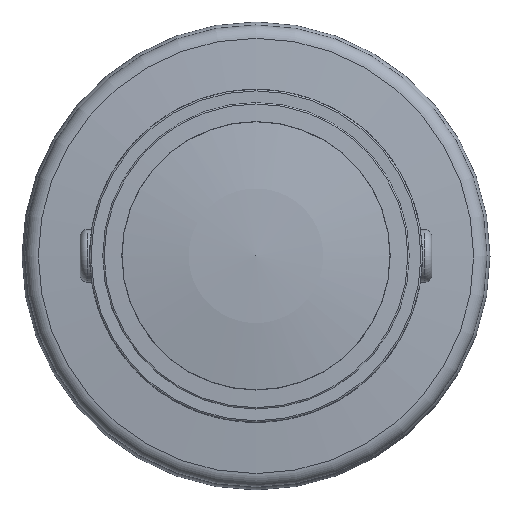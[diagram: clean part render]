
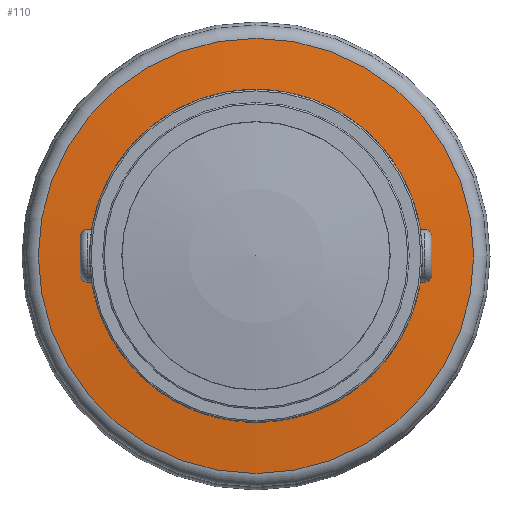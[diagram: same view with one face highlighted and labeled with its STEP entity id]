
A CAD part, top view. The second image highlights one B-rep face of the part: STEP entity #110.
In plain terms, the highlighted conical face has half-angle 85 degrees and reference radius 26.581 mm.
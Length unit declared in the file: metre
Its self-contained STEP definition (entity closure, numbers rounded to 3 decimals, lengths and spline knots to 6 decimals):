
#110 = ADVANCED_FACE( '', ( #247, #248 ), #249, .T. );
#247 = FACE_OUTER_BOUND( '', #432, .T. );
#248 = FACE_BOUND( '', #433, .T. );
#249 = CONICAL_SURFACE( '', #434, 0.026581, 1.484 );
#432 = EDGE_LOOP( '', ( #653 ) );
#433 = EDGE_LOOP( '', ( #654 ) );
#434 = AXIS2_PLACEMENT_3D( '', #655, #656, #657 );
#653 = ORIENTED_EDGE( '', *, *, #854, .T. );
#654 = ORIENTED_EDGE( '', *, *, #840, .T. );
#655 = CARTESIAN_POINT( '', ( 0., 0., -0.015809 ) );
#656 = DIRECTION( '', ( 0., 0., -1. ) );
#657 = DIRECTION( '', ( -1., 0., 0. ) );
#840 = EDGE_CURVE( '', #950, #950, #951, .T. );
#854 = EDGE_CURVE( '', #972, #972, #973, .T. );
#950 = VERTEX_POINT( '', #1748 );
#951 = CIRCLE( '', #1749, 0.026581 );
#972 = VERTEX_POINT( '', #1971 );
#973 = CIRCLE( '', #1972, 0.03775 );
#1748 = CARTESIAN_POINT( '', ( -0.026581, 0., -0.015809 ) );
#1749 = AXIS2_PLACEMENT_3D( '', #2525, #2526, #2527 );
#1971 = CARTESIAN_POINT( '', ( 0.03775, 0., -0.016786 ) );
#1972 = AXIS2_PLACEMENT_3D( '', #2540, #2541, #2542 );
#2525 = CARTESIAN_POINT( '', ( 0., 0., -0.015809 ) );
#2526 = DIRECTION( '', ( 0., 0., -1. ) );
#2527 = DIRECTION( '', ( -1., 0., 0. ) );
#2540 = CARTESIAN_POINT( '', ( 0., 0., -0.016786 ) );
#2541 = DIRECTION( '', ( 0., 0., 1. ) );
#2542 = DIRECTION( '', ( 1., 0., 0. ) );
